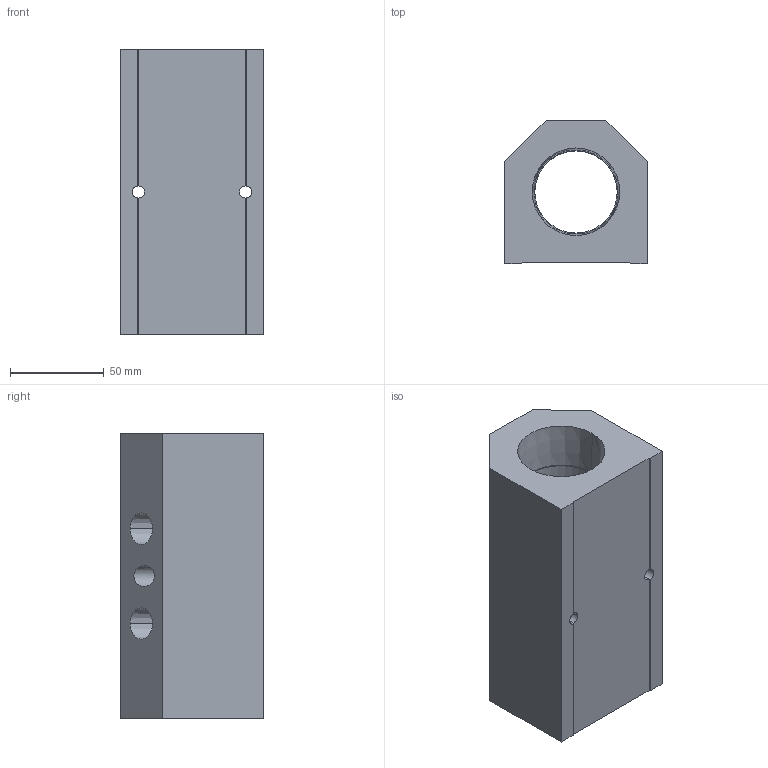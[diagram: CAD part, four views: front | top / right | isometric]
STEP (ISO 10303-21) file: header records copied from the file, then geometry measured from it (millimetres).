
FILE_DESCRIPTION (( 'STEP AP214' ), '1' );
FILE_NAME ('ALM2BD-N6N24-152R.step', '2022-02-07T07:57:55', ( '' ), ( '' ), 'SwSTEP 2.0', 'SolidWorks 2020', '' );
FILE_SCHEMA (( 'AUTOMOTIVE_DESIGN' ));
Length unit declared in the file: millimetre
Products named in the file (1): ALM2BD-N6N24-152R
Bounding box: 76.2 x 76.2 x 152 mm (x, y, z)
Volume: 546557.6 mm3; surface area: 75566.8 mm2
Topology: 1 solids, 1 shells, 290 faces, 764 edges, 508 vertices
Faces by surface type: plane 209, bspline 59, cone 12, cylinder 10
Entity records: 15872 total; most frequent: CARTESIAN_POINT 6244, ORIENTED_EDGE 1528, DIRECTION 1126, EDGE_CURVE 764, VECTOR 598, LINE 598, VERTEX_POINT 508, EDGE_LOOP 336
